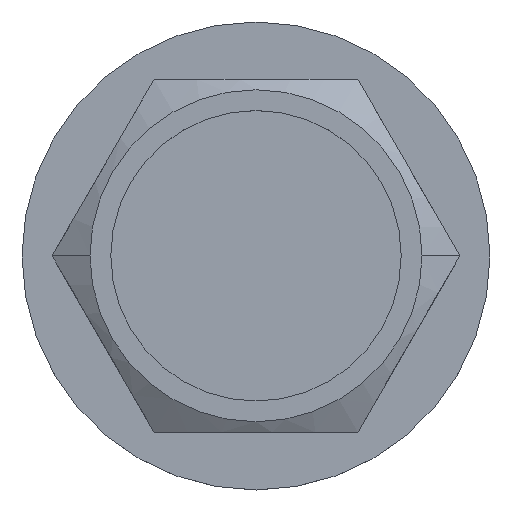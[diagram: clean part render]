
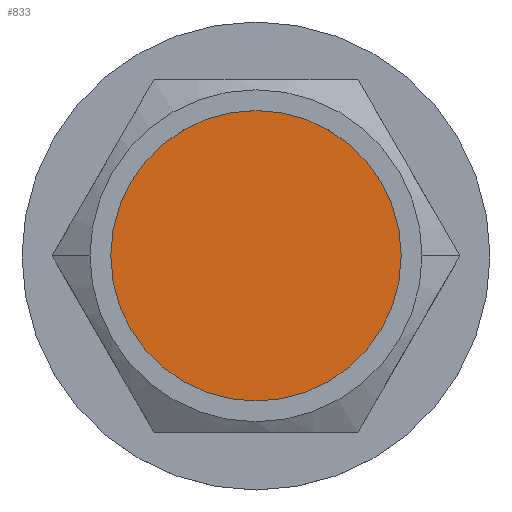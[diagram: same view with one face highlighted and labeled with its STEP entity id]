
A CAD part, top view. The second image highlights one B-rep face of the part: STEP entity #833.
In plain terms, the highlighted planar face has unit normal (0, 0, 1).
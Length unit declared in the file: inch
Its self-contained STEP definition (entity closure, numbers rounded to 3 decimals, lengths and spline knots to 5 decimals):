
#266=CARTESIAN_POINT('',(0.,0.,0.12));
#267=DIRECTION('',(0.,0.,1.));
#268=DIRECTION('',(-1.,0.,0.));
#269=AXIS2_PLACEMENT_3D('',#266,#267,#268);
#271=CARTESIAN_POINT('',(0.,0.,0.12));
#272=DIRECTION('',(0.,0.,1.));
#273=DIRECTION('',(1.,0.,0.));
#274=AXIS2_PLACEMENT_3D('',#271,#272,#273);
#460=CARTESIAN_POINT('',(-0.18,0.,0.12));
#461=VERTEX_POINT('',#460);
#471=CARTESIAN_POINT('',(0.18,0.,0.12));
#472=VERTEX_POINT('',#471);
#824=CARTESIAN_POINT('',(0.,0.,0.12));
#825=DIRECTION('',(0.,0.,-1.));
#826=DIRECTION('',(-1.,0.,0.));
#827=AXIS2_PLACEMENT_3D('',#824,#825,#826);
#828=PLANE('',#827);
#829=ORIENTED_EDGE('',*,*,#818,.F.);
#830=ORIENTED_EDGE('',*,*,#803,.F.);
#831=EDGE_LOOP('',(#829,#830));
#832=FACE_OUTER_BOUND('',#831,.F.);
#270=CIRCLE('',#269,0.18);
#275=CIRCLE('',#274,0.18);
#803=EDGE_CURVE('',#472,#461,#275,.T.);
#818=EDGE_CURVE('',#461,#472,#270,.T.);
#833=ADVANCED_FACE('',(#832),#828,.F.);
